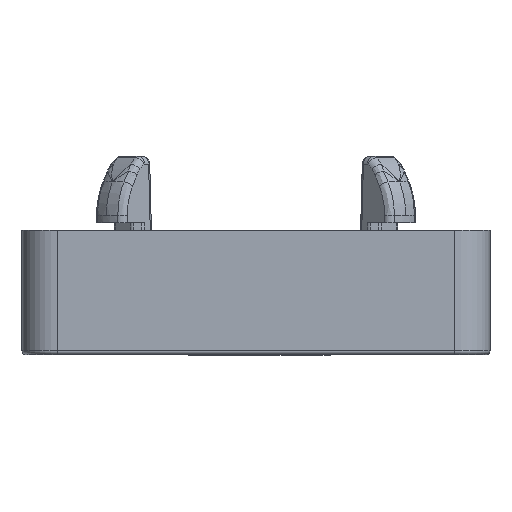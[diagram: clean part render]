
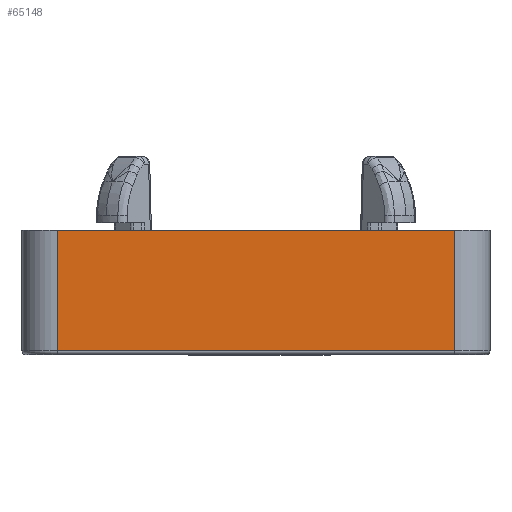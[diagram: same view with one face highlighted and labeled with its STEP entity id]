
A CAD part, left-side view. The second image highlights one B-rep face of the part: STEP entity #65148.
In plain terms, the highlighted planar face has unit normal (-1, 0, 0).
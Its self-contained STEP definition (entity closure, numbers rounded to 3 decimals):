
#65109=CARTESIAN_POINT('',(-73.8,29.7,0.));
#65110=DIRECTION('',(0.,0.,1.));
#65111=DIRECTION('',(-1.,0.,0.));
#65112=AXIS2_PLACEMENT_3D('',#65109,#65111,#65110);
#65113=PLANE('',#65112);
#65114=CARTESIAN_POINT('',(-73.8,25.2,0.5));
#65115=VERTEX_POINT('',#65114);
#65116=CARTESIAN_POINT('',(-73.8,-25.2,0.5));
#65117=VERTEX_POINT('',#65116);
#65118=CARTESIAN_POINT('',(-73.8,25.2,0.5));
#65119=DIRECTION('',(0.,-1.,0.));
#65120=VECTOR('',#65119,50.4);
#65121=LINE('',#65118,#65120);
#65122=EDGE_CURVE('',#65115,#65117,#65121,.T.);
#65123=ORIENTED_EDGE('E5188',*,*,#65122,.T.);
#65124=CARTESIAN_POINT('',(-73.8,-25.2,15.8));
#65125=VERTEX_POINT('',#65124);
#65126=CARTESIAN_POINT('',(-73.8,-25.2,0.5));
#65127=DIRECTION('',(0.,0.,1.));
#65128=VECTOR('',#65127,15.3);
#65129=LINE('',#65126,#65128);
#65130=EDGE_CURVE('',#65117,#65125,#65129,.T.);
#65131=ORIENTED_EDGE('E5189',*,*,#65130,.T.);
#65132=CARTESIAN_POINT('',(-73.8,25.2,15.8));
#65133=VERTEX_POINT('',#65132);
#65134=CARTESIAN_POINT('',(-73.8,-25.2,15.8));
#65135=DIRECTION('',(0.,1.,0.));
#65136=VECTOR('',#65135,50.4);
#65137=LINE('',#65134,#65136);
#65138=EDGE_CURVE('',#65125,#65133,#65137,.T.);
#65139=ORIENTED_EDGE('E5190',*,*,#65138,.T.);
#65140=CARTESIAN_POINT('',(-73.8,25.2,15.8));
#65141=DIRECTION('',(0.,0.,-1.));
#65142=VECTOR('',#65141,15.3);
#65143=LINE('',#65140,#65142);
#65144=EDGE_CURVE('',#65133,#65115,#65143,.T.);
#65145=ORIENTED_EDGE('E5191',*,*,#65144,.T.);
#65146=EDGE_LOOP('',(#65123,#65131,#65139,#65145));
#65147=FACE_OUTER_BOUND('',#65146,.T.);
#65148=ADVANCED_FACE('F1821',(#65147),#65113,.T.);
